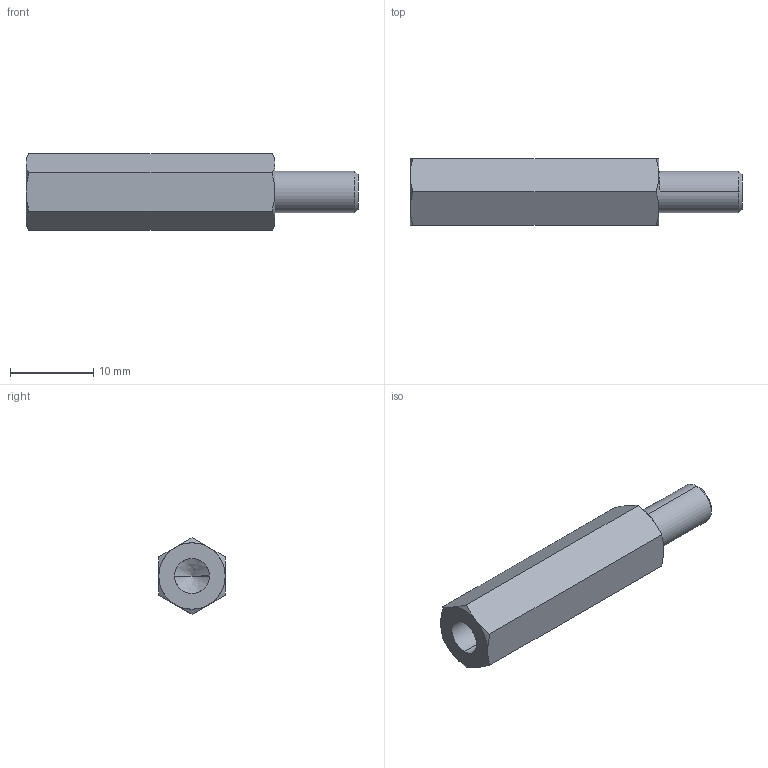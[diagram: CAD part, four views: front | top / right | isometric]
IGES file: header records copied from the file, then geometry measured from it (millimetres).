
Start section: SolidWorks IGES file using analytic representation for surfaces
Global section: file name: C:\Users\render1\Desktop\P0185_IGES\P0185.05-30.igs; native system: SolidWorks 2009; preprocessor: SolidWorks 2009; author: render1; date: 130627.112534; units: millimetre
Bounding box: 40 x 8 x 9.24 mm (x, y, z)
Surface area: 1224.3 mm2 (no closed solid volume)
Topology: 0 solids, 0 shells, 29 faces, 324 edges, 322 vertices
Faces by surface type: revolution 20, bspline 9
